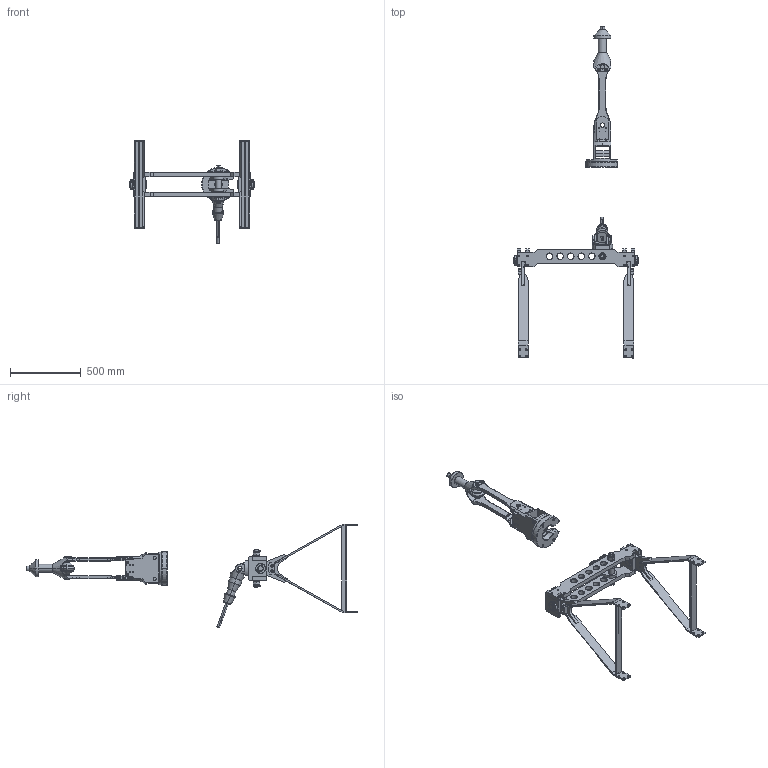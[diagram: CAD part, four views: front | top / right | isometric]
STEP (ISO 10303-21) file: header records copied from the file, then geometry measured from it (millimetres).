
FILE_DESCRIPTION (( 'STEP AP203' ), '1' );
FILE_NAME ('ROV_Bullet_Imenco_universal_joint.STEP', '2022-07-15T06:51:56', ( '' ), ( '' ), 'SwSTEP 2.0', 'SolidWorks 2019', '' );
FILE_SCHEMA (( 'CONFIG_CONTROL_DESIGN' ));
Length unit declared in the file: millimetre
Products named in the file (16): Synthetic Rope 28mm_Default<As Machined>; ISO7380 M10x16 A2^Copy of 147153_148222_Latch_Imenco; Copy of 147153^148222_Latch_Imenco; 25475; 104981^110907_Copy of 147153_148222_Latch_Imenco; 107862^Copy of 147153_148222_Latch_Imenco; 104974^110907_Copy of 147153_148222_Latch_Imenco; Copy of ROV_1^148222_Latch_Imenco; ROV bullet_v6; 148280^Copy of 147153_148222_Latch_Imenco; ROV_Bullet_Imenco_universal_joint; 147154^Copy of 147153_148222_Latch_Imenco; Part30^148222_Latch_Imenco; ROV Bullet_v3_Default<As Machined>; 110907^Copy of 147153_148222_Latch_Imenco; 104982^110907_Copy of 147153_148222_Latch_Imenco
Assembly tree (15 placements, depth 4):
  ROV bullet_v6
  ROV_Bullet_Imenco_universal_joint
    Copy of ROV_1^148222_Latch_Imenco
    Copy of 147153^148222_Latch_Imenco
      110907^Copy of 147153_148222_Latch_Imenco
        104982^110907_Copy of 147153_148222_Latch_Imenco
        104974^110907_Copy of 147153_148222_Latch_Imenco
        104981^110907_Copy of 147153_148222_Latch_Imenco
      147154^Copy of 147153_148222_Latch_Imenco
      ISO7380 M10x16 A2^Copy of 147153_148222_Latch_Imenco  x2
      107862^Copy of 147153_148222_Latch_Imenco
      148280^Copy of 147153_148222_Latch_Imenco
    Synthetic Rope 28mm_Default<As Machined>
    25475
    ROV Bullet_v3_Default<As Machined>
    Part30^148222_Latch_Imenco
Bounding box: 891 x 2352.5 x 735.02 mm (x, y, z)
Volume: 19706053.5 mm3; surface area: 3002622.1 mm2
Topology: 52 solids, 56 shells, 1639 faces, 4157 edges, 2611 vertices
Faces by surface type: cylinder 639, plane 553, cone 304, torus 93, bspline 46, sphere 4
Entity records: 55167 total; most frequent: CARTESIAN_POINT 14165, DIRECTION 8368, ORIENTED_EDGE 8094, EDGE_CURVE 4047, AXIS2_PLACEMENT_3D 3183, VERTEX_POINT 2578, VECTOR 2002, LINE 2002
